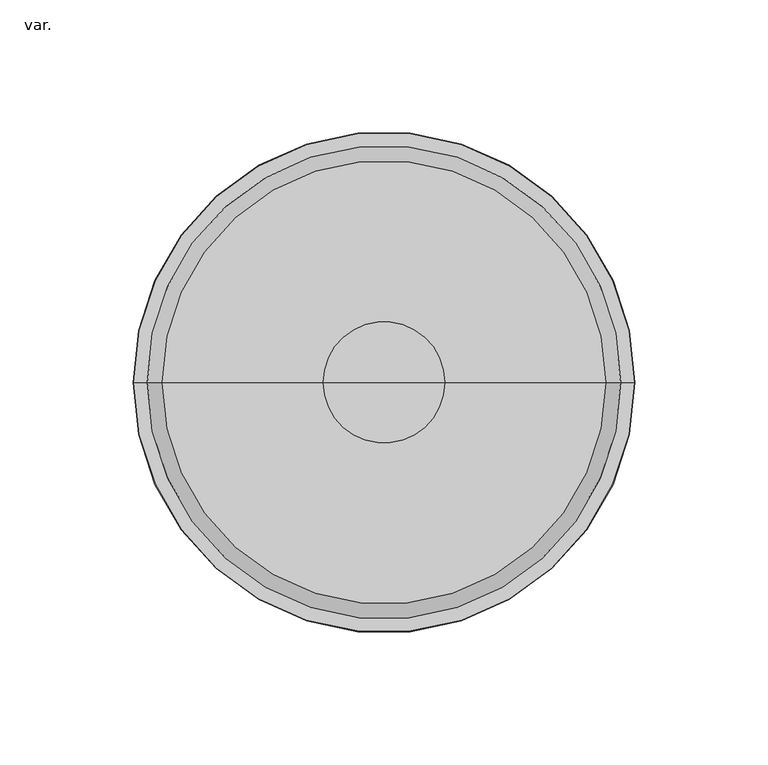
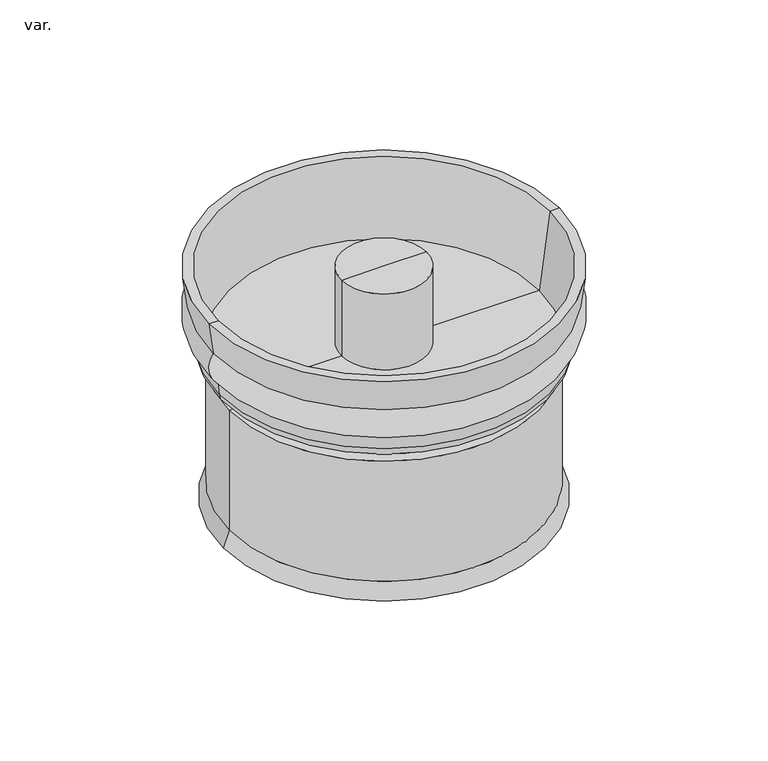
"""IFC4 building model written with IfcOpenShell, lengths in millimetres: pipe fitting geometry, AmancoWavin_ConexõesdeTubos_SaneamentoEsgotoNãoUsarTampãoparaTIL : var.."""

from ifc_helpers import new_model, si_unit, point, frame, origin, place, context, project, spatial, polyline, circle_curve, ellipse_curve, trimmed, source, transform, mapped, element, save
from ifc_brep_helpers import plane_surface, cylinder_surface, revolved_surface, advanced_brep


def var_23e399f1(model_context):
    return source(origin(), model_context, "Body", "AdvancedBrep", [
        advanced_brep(
        [(86.2, 0.0, 0.0), (-86.2, 0.0, 0.0), (-83.0, 0.0, 8.7919277), (83.0, 0.0, 8.7919277), (83.5395556, 0.0, 0.0), (-83.5395556, 0.0, 0.0), (80.5, 0.0, 8.3511103), (-80.5, 0.0, 8.3511103), (80.5, 0.0, 74.5), (-80.5, 0.0, 74.5), (74.5, 0.0, 74.5), (-74.5, 0.0, 74.5), (74.5, 0.0, 84.1626384), (-74.5, 0.0, 84.1626384), (88.85, 0.0, 129.580027), (-88.85, 0.0, 129.580027), (-83.3217917, 0.0, 86.6626384), (83.3217917, 0.0, 86.6626384), (91.5097578, 0.0, 112.080027), (-91.5097578, 0.0, 112.080027), (-93.85, 0.0, 129.580027), (93.85, 0.0, 129.580027), (89.1984412, 0.0, 94.7333324), (-89.1984412, 0.0, 94.7333324), (77.0, 0.0, 77.0), (-77.0, 0.0, 77.0), (-77.0, 0.0, 81.6626384), (77.0, 0.0, 81.6626384), (83.0, 0.0, 77.0), (-83.0, 0.0, 77.0), (88.3489044, 0.0, 87.8081402), (-88.3489044, 0.0, 87.8081402), (81.8933558, 0.0, 81.6626384), (-81.8933558, 0.0, 81.6626384), (0.0, 0.0, 84.1626384), (22.75, 0.0, 129.580027), (-22.75, 0.0, 129.580027), (0.0, 0.0, 129.580027), (22.75, 0.0, 86.6626384), (-22.75, 0.0, 86.6626384)],
        [
            (0, 1, circle_curve(frame((0.0, 0.0, 0.0), z_axis=(0.0, 0.0, 1.0), x_axis=(-1.0, 0.0, 0.0)), 86.2)),
            (1, 2),
            (2, 3, circle_curve(frame((0.0, 0.0, 8.7919277), z_axis=(0.0, 0.0, -1.0), x_axis=(-1.0, 0.0, 0.0)), 83.0)),
            (3, 0),
            (1, 0, circle_curve(frame((0.0, 0.0, 0.0), z_axis=(0.0, 0.0, 1.0), x_axis=(-1.0, 0.0, 0.0)), 86.2)),
            (3, 2, circle_curve(frame((0.0, 0.0, 8.7919277), z_axis=(0.0, 0.0, -1.0), x_axis=(-1.0, 0.0, 0.0)), 83.0)),
            (4, 5, circle_curve(frame((0.0, 0.0, 0.0), z_axis=(0.0, 0.0, 1.0), x_axis=(-1.0, 0.0, 0.0)), 83.5395556)),
            (5, 1),
            (0, 4),
            (5, 4, circle_curve(frame((0.0, 0.0, 0.0), z_axis=(0.0, 0.0, 1.0), x_axis=(-1.0, 0.0, 0.0)), 83.5395556)),
            (6, 7, circle_curve(frame((0.0, 0.0, 8.3511103), z_axis=(0.0, 0.0, 1.0), x_axis=(-1.0, 0.0, 0.0)), 80.5)),
            (7, 5),
            (4, 6),
            (7, 6, circle_curve(frame((0.0, 0.0, 8.3511103), z_axis=(0.0, 0.0, 1.0), x_axis=(-1.0, 0.0, 0.0)), 80.5)),
            (8, 9, circle_curve(frame((0.0, 0.0, 74.5), z_axis=(0.0, 0.0, 1.0), x_axis=(-1.0, 0.0, 0.0)), 80.5)),
            (9, 7),
            (6, 8),
            (9, 8, circle_curve(frame((0.0, 0.0, 74.5), z_axis=(0.0, 0.0, 1.0), x_axis=(-1.0, 0.0, 0.0)), 80.5)),
            (10, 11, circle_curve(frame((0.0, 0.0, 74.5), z_axis=(0.0, 0.0, 1.0), x_axis=(-1.0, 0.0, 0.0)), 74.5)),
            (11, 9),
            (8, 10),
            (11, 10, circle_curve(frame((0.0, 0.0, 74.5), z_axis=(0.0, 0.0, 1.0), x_axis=(-1.0, 0.0, 0.0)), 74.5)),
            (12, 13, circle_curve(frame((0.0, 0.0, 84.1626384), z_axis=(0.0, 0.0, 1.0), x_axis=(-1.0, 0.0, 0.0)), 74.5)),
            (13, 11),
            (10, 12),
            (13, 12, circle_curve(frame((0.0, 0.0, 84.1626384), z_axis=(0.0, 0.0, 1.0), x_axis=(-1.0, 0.0, 0.0)), 74.5)),
            (14, 15, circle_curve(frame((0.0, 0.0, 129.580027), z_axis=(0.0, 0.0, 1.0), x_axis=(-1.0, 0.0, 0.0)), 88.85)),
            (15, 16),
            (16, 17, circle_curve(frame((0.0, 0.0, 86.6626384), z_axis=(0.0, 0.0, -1.0), x_axis=(-1.0, 0.0, 0.0)), 83.3217917)),
            (17, 14),
            (15, 14, circle_curve(frame((0.0, 0.0, 129.580027), z_axis=(0.0, 0.0, 1.0), x_axis=(-1.0, 0.0, 0.0)), 88.85)),
            (17, 16, circle_curve(frame((0.0, 0.0, 86.6626384), z_axis=(0.0, 0.0, -1.0), x_axis=(-1.0, 0.0, 0.0)), 83.3217917)),
            (18, 19, circle_curve(frame((0.0, 0.0, 112.080027), z_axis=(0.0, 0.0, 1.0), x_axis=(-1.0, 0.0, 0.0)), 91.5097578)),
            (19, 20),
            (20, 21, circle_curve(frame((0.0, 0.0, 129.580027), z_axis=(0.0, 0.0, -1.0), x_axis=(-1.0, 0.0, 0.0)), 93.85)),
            (21, 18),
            (19, 18, circle_curve(frame((0.0, 0.0, 112.080027), z_axis=(0.0, 0.0, 1.0), x_axis=(-1.0, 0.0, 0.0)), 91.5097578)),
            (21, 20, circle_curve(frame((0.0, 0.0, 129.580027), z_axis=(0.0, 0.0, -1.0), x_axis=(-1.0, 0.0, 0.0)), 93.85)),
            (22, 23, circle_curve(frame((0.0, 0.0, 94.7333324), z_axis=(0.0, 0.0, 1.0), x_axis=(-1.0, 0.0, 0.0)), 89.1984412)),
            (23, 19, circle_curve(frame((-81.8761915, 0.0, 104.5362972), z_axis=(0.0, 1.0, 0.0), x_axis=(1.0, 0.0, 0.0)), 12.2357452)),
            (18, 22, circle_curve(frame((81.8761915, 0.0, 104.5362972), z_axis=(0.0, 1.0, 0.0), x_axis=(-1.0, 0.0, 0.0)), 12.2357452)),
            (23, 22, circle_curve(frame((0.0, 0.0, 94.7333324), z_axis=(0.0, 0.0, 1.0), x_axis=(-1.0, 0.0, 0.0)), 89.1984412)),
            (24, 25, circle_curve(frame((0.0, 0.0, 77.0), z_axis=(0.0, 0.0, 1.0), x_axis=(-1.0, 0.0, 0.0)), 77.0)),
            (25, 26),
            (26, 27, circle_curve(frame((0.0, 0.0, 81.6626384), z_axis=(0.0, 0.0, -1.0), x_axis=(-1.0, 0.0, 0.0)), 77.0)),
            (27, 24),
            (25, 24, circle_curve(frame((0.0, 0.0, 77.0), z_axis=(0.0, 0.0, 1.0), x_axis=(-1.0, 0.0, 0.0)), 77.0)),
            (27, 26, circle_curve(frame((0.0, 0.0, 81.6626384), z_axis=(0.0, 0.0, -1.0), x_axis=(-1.0, 0.0, 0.0)), 77.0)),
            (28, 29, circle_curve(frame((0.0, 0.0, 77.0), z_axis=(0.0, 0.0, 1.0), x_axis=(-1.0, 0.0, 0.0)), 83.0)),
            (29, 25),
            (24, 28),
            (29, 28, circle_curve(frame((0.0, 0.0, 77.0), z_axis=(0.0, 0.0, 1.0), x_axis=(-1.0, 0.0, 0.0)), 83.0)),
            (2, 29),
            (28, 3),
            (30, 31, circle_curve(frame((0.0, 0.0, 87.8081402), z_axis=(0.0, 0.0, 1.0), x_axis=(-1.0, 0.0, 0.0)), 88.3489044)),
            (31, 23),
            (22, 30),
            (31, 30, circle_curve(frame((0.0, 0.0, 87.8081402), z_axis=(0.0, 0.0, 1.0), x_axis=(-1.0, 0.0, 0.0)), 88.3489044)),
            (32, 33, circle_curve(frame((0.0, 0.0, 81.6626384), z_axis=(0.0, 0.0, 1.0), x_axis=(-1.0, 0.0, 0.0)), 81.8933558)),
            (33, 31, circle_curve(frame((-81.8933558, 0.0, 88.1260082), z_axis=(0.0, 1.0, 0.0), x_axis=(1.0, 0.0, 0.0)), 6.4633698)),
            (30, 32, circle_curve(frame((81.8933558, 0.0, 88.1260082), z_axis=(0.0, 1.0, 0.0), x_axis=(-1.0, 0.0, 0.0)), 6.4633698)),
            (33, 32, circle_curve(frame((0.0, 0.0, 81.6626384), z_axis=(0.0, 0.0, 1.0), x_axis=(-1.0, 0.0, 0.0)), 81.8933558)),
            (26, 33),
            (32, 27),
            (34, 13),
            (12, 34),
            (35, 36, circle_curve(frame((0.0, 0.0, 129.580027), z_axis=(0.0, 0.0, 1.0), x_axis=(-1.0, 0.0, 0.0)), 22.75)),
            (36, 37),
            (37, 35),
            (36, 35, circle_curve(frame((0.0, 0.0, 129.580027), z_axis=(0.0, 0.0, 1.0), x_axis=(-1.0, 0.0, 0.0)), 22.75)),
            (38, 39, circle_curve(frame((0.0, 0.0, 86.6626384), z_axis=(0.0, 0.0, 1.0), x_axis=(-1.0, 0.0, 0.0)), 22.75)),
            (39, 36),
            (35, 38),
            (39, 38, circle_curve(frame((0.0, 0.0, 86.6626384), z_axis=(0.0, 0.0, 1.0), x_axis=(-1.0, 0.0, 0.0)), 22.75)),
            (16, 39),
            (38, 17),
            (20, 15),
            (14, 21),
        ],
        [
            revolved_surface(polyline([(-83.0, 0.0, 8.7919277), (-86.2, 0.0, 0.0)]), (0.0, 0.0, 2186.3060992), (0.0, 0.0, -1.0)),
            plane_surface(frame((0.0, 0.0, 0.0), z_axis=(0.0, 0.0, -1.0), x_axis=(-1.0, 0.0, 0.0))),
            revolved_surface(polyline([(-83.5395556, 0.0, 0.0), (-80.5, 0.0, 8.3511103)]), (0.0, 0.0, 2186.3060992), (0.0, 0.0, -1.0)),
            revolved_surface(polyline([(-80.5, 0.0, 8.351110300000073), (-80.5, 0.0, 74.5)]), (0.0, 0.0, 2186.3060992), (0.0, 0.0, -1.0)),
            plane_surface(frame((0.0, 0.0, 74.5), z_axis=(0.0, 0.0, -1.0), x_axis=(-1.0, 0.0, 0.0))),
            revolved_surface(polyline([(-74.5, 0.0, 74.5), (-74.5, 0.0, 84.1626384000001)]), (0.0, 0.0, 2186.3060992), (0.0, 0.0, -1.0)),
            revolved_surface(polyline([(-83.3217917, 0.0, 86.6626384), (-88.85, 0.0, 129.580027)]), (0.0, 0.0, 2186.3060992), (0.0, 0.0, -1.0)),
            revolved_surface(polyline([(-93.85, 0.0, 129.580027), (-91.5097578, 0.0, 112.080027)]), (0.0, 0.0, 2186.3060992), (0.0, 0.0, -1.0)),
            revolved_surface(trimmed(ellipse_curve(frame((-81.8761915, 0.0, 104.5362972), z_axis=(0.0, -1.0, 0.0), x_axis=(1.0, 0.0, 0.0)), 12.2357452, 12.2357452), [point((-91.5097578, 0.0, 112.080027))], [point((-89.1984412, 0.0, 94.7333324))], True, "CARTESIAN"), (0.0, 0.0, 2186.3060992), (0.0, 0.0, -1.0)),
            cylinder_surface(frame((0.0, 0.0, 2186.3060992), z_axis=(0.0, 0.0, -1.0), x_axis=(-1.0, 0.0, 0.0)), 77.0),
            plane_surface(frame((0.0, 0.0, 77.0), z_axis=(0.0, 0.0, 1.0), x_axis=(-1.0, 0.0, 0.0))),
            cylinder_surface(frame((0.0, 0.0, 2186.3060992), z_axis=(0.0, 0.0, -1.0), x_axis=(-1.0, 0.0, 0.0)), 83.0),
            revolved_surface(polyline([(-89.1984412, 0.0, 94.7333324), (-88.3489044, 0.0, 87.8081402)]), (0.0, 0.0, 2186.3060992), (0.0, 0.0, -1.0)),
            revolved_surface(trimmed(ellipse_curve(frame((-81.8933558, 0.0, 88.1260082), z_axis=(0.0, -1.0, 0.0), x_axis=(1.0, 0.0, 0.0)), 6.4633698, 6.4633698), [point((-88.3489044, 0.0, 87.8081402))], [point((-81.8933558, 0.0, 81.6626384))], True, "CARTESIAN"), (0.0, 0.0, 2186.3060992), (0.0, 0.0, -1.0)),
            plane_surface(frame((0.0, 0.0, 81.6626384), z_axis=(0.0, 0.0, -1.0), x_axis=(-1.0, 0.0, 0.0))),
            plane_surface(frame((0.0, 0.0, 84.1626384), z_axis=(0.0, 0.0, -1.0), x_axis=(-1.0, 0.0, 0.0))),
            plane_surface(frame((0.0, 0.0, 129.580027), z_axis=(0.0, 0.0, 1.0), x_axis=(-1.0, 0.0, 0.0))),
            cylinder_surface(frame((0.0, 0.0, 2186.3060992), z_axis=(0.0, 0.0, -1.0), x_axis=(-1.0, 0.0, 0.0)), 22.75),
            plane_surface(frame((0.0, 0.0, 86.6626384), z_axis=(0.0, 0.0, 1.0), x_axis=(-1.0, 0.0, 0.0))),
        ],
        [
            (0, [[1, 2, 3, 4]]),
            (0, [[5, -4, 6, -2]]),
            (1, [[7, 8, -1, 9]]),
            (1, [[10, -9, -5, -8]]),
            (2, [[11, 12, -7, 13]]),
            (2, [[14, -13, -10, -12]]),
            (3, [[15, 16, -11, 17]]),
            (3, [[18, -17, -14, -16]]),
            (4, [[19, 20, -15, 21]]),
            (4, [[22, -21, -18, -20]]),
            (5, [[23, 24, -19, 25]]),
            (5, [[26, -25, -22, -24]]),
            (6, [[27, 28, 29, 30]]),
            (6, [[31, -30, 32, -28]]),
            (7, [[33, 34, 35, 36]]),
            (7, [[37, -36, 38, -34]]),
            (8, [[39, 40, -33, 41]]),
            (8, [[42, -41, -37, -40]]),
            (9, [[43, 44, 45, 46]]),
            (9, [[47, -46, 48, -44]]),
            (10, [[49, 50, -43, 51]]),
            (10, [[52, -51, -47, -50]]),
            (11, [[-3, 53, -49, 54]]),
            (11, [[-6, -54, -52, -53]]),
            (12, [[55, 56, -39, 57]]),
            (12, [[58, -57, -42, -56]]),
            (13, [[59, 60, -55, 61]]),
            (13, [[62, -61, -58, -60]]),
            (14, [[-45, 63, -59, 64]]),
            (14, [[-48, -64, -62, -63]]),
            (15, [[65, -23, 66]]),
            (15, [[-66, -26, -65]]),
            (16, [[67, 68, 69]]),
            (16, [[70, -69, -68]]),
            (17, [[71, 72, -67, 73]]),
            (17, [[74, -73, -70, -72]]),
            (18, [[-29, 75, -71, 76]]),
            (18, [[-32, -76, -74, -75]]),
            (16, [[-35, 77, -27, 78]]),
            (16, [[-38, -78, -31, -77]]),
        ],
    ),
    ])


if __name__ == "__main__":
    model = new_model("IFC4")
    model_context = context("Model", 3, world=origin())
    ifc_project = project(units=[si_unit("LENGTHUNIT", "METRE", prefix="MILLI")], contexts=[model_context])
    site = spatial("IfcSite", under=ifc_project)
    building = spatial("IfcBuilding", under=site)
    placement = place(None, origin())
    var_shape = var_23e399f1(model_context)
    element("IfcPipeFitting", 1, ObjectType="AmancoWavin_ConexõesdeTubos_SaneamentoEsgotoNãoUsarTampãoparaTIL : var.", at=placement, inside=building, context=model_context, shape_type="MappedRepresentation", body=[
        mapped(var_shape, transform((0.0, 0.0, 0.0), x_axis=(1.0, 0.0, 0.0), y_axis=(0.0, 1.0, 0.0), z_axis=(0.0, 0.0, 1.0))),
    ])
    save(model, "model.ifc")
